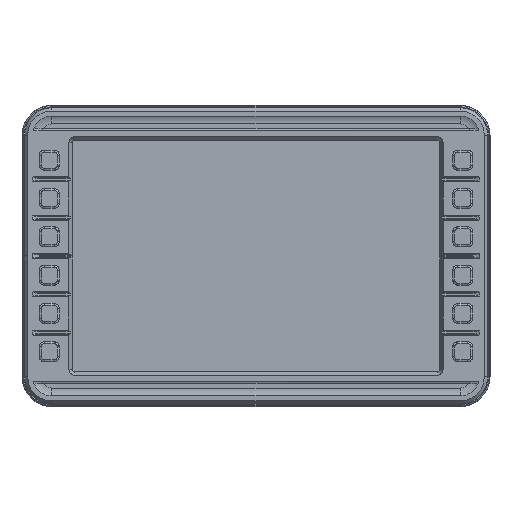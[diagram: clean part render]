
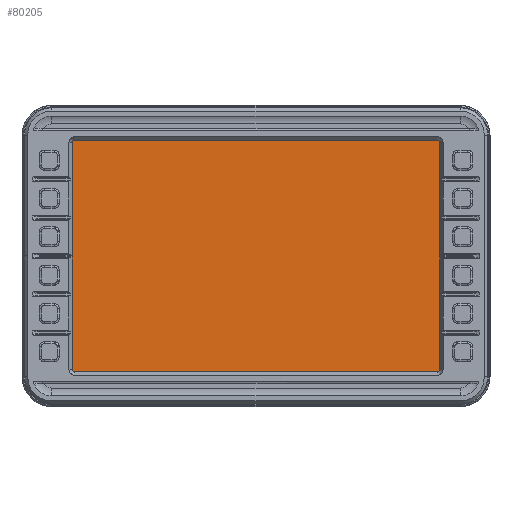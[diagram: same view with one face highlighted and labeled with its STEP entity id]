
A CAD part, top view. The second image highlights one B-rep face of the part: STEP entity #80205.
In plain terms, the highlighted planar face has unit normal (0, 0, 1).
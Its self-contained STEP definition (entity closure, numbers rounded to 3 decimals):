
#40 = VERTEX_POINT ( 'NONE', #167639 ) ;
#1006 = DIRECTION ( 'NONE',  ( 1., 0., 0. ) ) ;
#3501 = FACE_OUTER_BOUND ( 'NONE', #92392, .T. ) ;
#8325 = DIRECTION ( 'NONE',  ( 0., 0., -1. ) ) ;
#19036 = VERTEX_POINT ( 'NONE', #70396 ) ;
#21562 = EDGE_CURVE ( 'NONE', #143466, #123699, #156036, .T. ) ;
#24072 = VERTEX_POINT ( 'NONE', #129688 ) ;
#29270 = CARTESIAN_POINT ( 'NONE',  ( -122.45, -72.45, 3.2 ) ) ;
#33201 = AXIS2_PLACEMENT_3D ( 'NONE', #100401, #141591, #126997 ) ;
#33336 = CARTESIAN_POINT ( 'NONE',  ( -110.25, -69.55, 3.2 ) ) ;
#36381 = LINE ( 'NONE', #128143, #153612 ) ;
#45080 = ORIENTED_EDGE ( 'NONE', *, *, #70339, .F. ) ;
#48129 = CARTESIAN_POINT ( 'NONE',  ( -108.75, -68.05, 3.2 ) ) ;
#50743 = VECTOR ( 'NONE', #140521, 1000. ) ;
#51977 = CIRCLE ( 'NONE', #147854, 1.5 ) ;
#56390 = CIRCLE ( 'NONE', #122141, 1.5 ) ;
#58698 = LINE ( 'NONE', #111022, #86612 ) ;
#61868 = DIRECTION ( 'NONE',  ( 0., 0., -1. ) ) ;
#66162 = DIRECTION ( 'NONE',  ( 0., 0., 1. ) ) ;
#70339 = EDGE_CURVE ( 'NONE', #101693, #40, #51977, .T. ) ;
#70396 = CARTESIAN_POINT ( 'NONE',  ( 110.25, -68.05, 3.2 ) ) ;
#72643 = VERTEX_POINT ( 'NONE', #118411 ) ;
#72870 = ORIENTED_EDGE ( 'NONE', *, *, #87360, .F. ) ;
#75552 = DIRECTION ( 'NONE',  ( 1., 0., 0. ) ) ;
#76140 = LINE ( 'NONE', #33336, #50743 ) ;
#76342 = ORIENTED_EDGE ( 'NONE', *, *, #129917, .T. ) ;
#76580 = VERTEX_POINT ( 'NONE', #109193 ) ;
#80205 = ADVANCED_FACE ( 'NONE', ( #3501 ), #161325, .T. ) ;
#80968 = ORIENTED_EDGE ( 'NONE', *, *, #142043, .T. ) ;
#84231 = CARTESIAN_POINT ( 'NONE',  ( -108.75, 68.05, 3.2 ) ) ;
#86612 = VECTOR ( 'NONE', #89490, 1000. ) ;
#87360 = EDGE_CURVE ( 'NONE', #19036, #76580, #56390, .T. ) ;
#89490 = DIRECTION ( 'NONE',  ( -1., 0., 0. ) ) ;
#92392 = EDGE_LOOP ( 'NONE', ( #99696, #158292, #150288, #80968, #45080, #76342, #72870, #109537 ) ) ;
#97147 = EDGE_CURVE ( 'NONE', #24072, #72643, #164717, .T. ) ;
#99696 = ORIENTED_EDGE ( 'NONE', *, *, #97147, .F. ) ;
#100401 = CARTESIAN_POINT ( 'NONE',  ( 108.75, 68.05, 3.2 ) ) ;
#101693 = VERTEX_POINT ( 'NONE', #109054 ) ;
#109054 = CARTESIAN_POINT ( 'NONE',  ( -108.75, -69.55, 3.2 ) ) ;
#109193 = CARTESIAN_POINT ( 'NONE',  ( 108.75, -69.55, 3.2 ) ) ;
#109537 = ORIENTED_EDGE ( 'NONE', *, *, #160139, .T. ) ;
#110812 = DIRECTION ( 'NONE',  ( 0., 0., -1. ) ) ;
#111022 = CARTESIAN_POINT ( 'NONE',  ( 110.25, 69.55, 3.2 ) ) ;
#117700 = AXIS2_PLACEMENT_3D ( 'NONE', #84231, #110812, #138269 ) ;
#118411 = CARTESIAN_POINT ( 'NONE',  ( 110.25, 68.05, 3.2 ) ) ;
#118617 = CARTESIAN_POINT ( 'NONE',  ( -110.25, 69.55, 3.2 ) ) ;
#122141 = AXIS2_PLACEMENT_3D ( 'NONE', #125819, #8325, #149020 ) ;
#123699 = VERTEX_POINT ( 'NONE', #139845 ) ;
#125819 = CARTESIAN_POINT ( 'NONE',  ( 108.75, -68.05, 3.2 ) ) ;
#126997 = DIRECTION ( 'NONE',  ( 1., 0., 0. ) ) ;
#127282 = DIRECTION ( 'NONE',  ( 0., 1., 0. ) ) ;
#128143 = CARTESIAN_POINT ( 'NONE',  ( 110.25, -69.55, 3.2 ) ) ;
#129688 = CARTESIAN_POINT ( 'NONE',  ( 108.75, 69.55, 3.2 ) ) ;
#129917 = EDGE_CURVE ( 'NONE', #101693, #76580, #76140, .T. ) ;
#131714 = EDGE_CURVE ( 'NONE', #24072, #123699, #58698, .T. ) ;
#134009 = DIRECTION ( 'NONE',  ( 0., -1., 0. ) ) ;
#135381 = AXIS2_PLACEMENT_3D ( 'NONE', #29270, #66162, #1006 ) ;
#138269 = DIRECTION ( 'NONE',  ( 1., 0., 0. ) ) ;
#139495 = VECTOR ( 'NONE', #134009, 1000. ) ;
#139845 = CARTESIAN_POINT ( 'NONE',  ( -108.75, 69.55, 3.2 ) ) ;
#140521 = DIRECTION ( 'NONE',  ( 1., 0., 0. ) ) ;
#141591 = DIRECTION ( 'NONE',  ( 0., 0., -1. ) ) ;
#142043 = EDGE_CURVE ( 'NONE', #143466, #40, #146049, .T. ) ;
#143466 = VERTEX_POINT ( 'NONE', #155202 ) ;
#146049 = LINE ( 'NONE', #118617, #139495 ) ;
#147854 = AXIS2_PLACEMENT_3D ( 'NONE', #48129, #61868, #75552 ) ;
#149020 = DIRECTION ( 'NONE',  ( 1., 0., 0. ) ) ;
#150288 = ORIENTED_EDGE ( 'NONE', *, *, #21562, .F. ) ;
#153612 = VECTOR ( 'NONE', #127282, 1000. ) ;
#155202 = CARTESIAN_POINT ( 'NONE',  ( -110.25, 68.05, 3.2 ) ) ;
#156036 = CIRCLE ( 'NONE', #117700, 1.5 ) ;
#158292 = ORIENTED_EDGE ( 'NONE', *, *, #131714, .T. ) ;
#160139 = EDGE_CURVE ( 'NONE', #19036, #72643, #36381, .T. ) ;
#161325 = PLANE ( 'NONE',  #135381 ) ;
#164717 = CIRCLE ( 'NONE', #33201, 1.5 ) ;
#167639 = CARTESIAN_POINT ( 'NONE',  ( -110.25, -68.05, 3.2 ) ) ;
